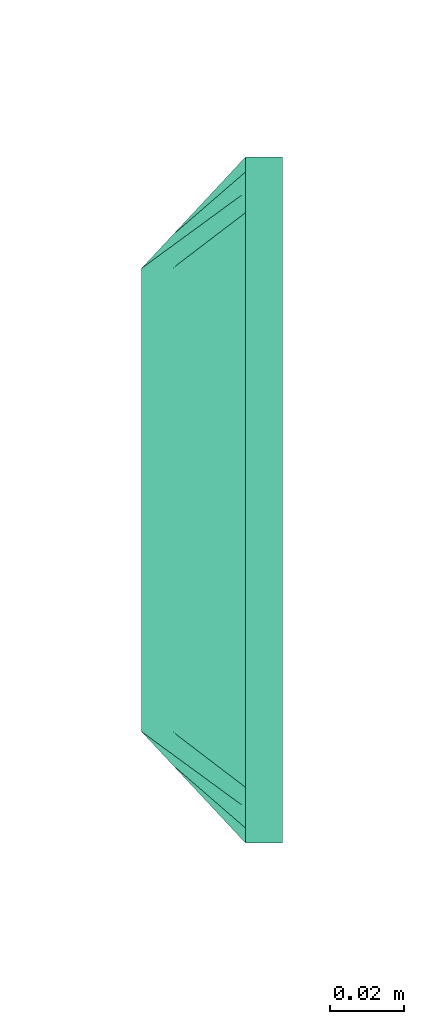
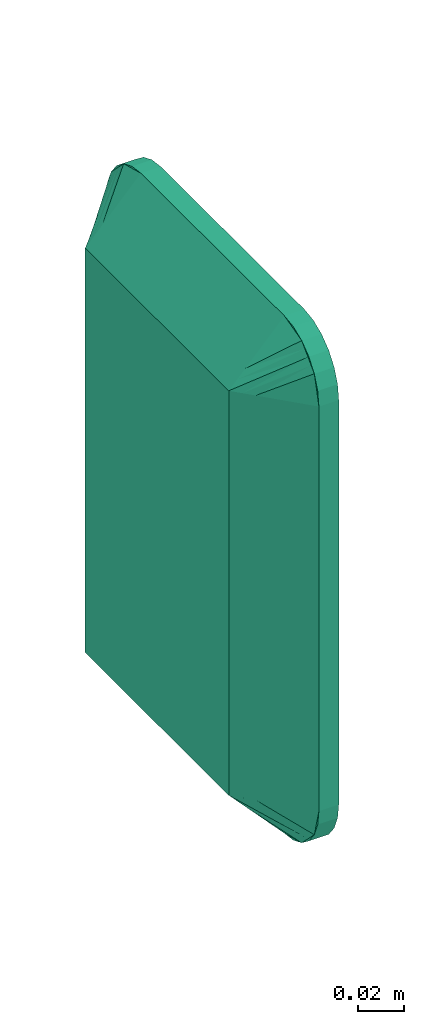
# One storey, part 81 of 166: 1 distribution control element.
"""IFC2X3 building model written with IfcOpenShell, lengths in metres."""

from ifc_helpers import new_model, entity, si_unit, converted_unit, derived_unit, direction, frame, origin, place, context, subcontext, project, spatial, faceted_brep, source, transform, mapped, material, material_list, type_object, type_shapes, element, save


model = new_model("IFC2X3")

# Units and contexts
model_context = context("Model", 3, precision=1e-05, world=origin(), true_north=direction((6.12303176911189e-17, 1.0)))
body_context = subcontext(model_context, "Body", "Model", "MODEL_VIEW")
ifc_project = project(units=[si_unit("LENGTHUNIT", "METRE"), si_unit("AREAUNIT", "SQUARE_METRE"), si_unit("VOLUMEUNIT", "CUBIC_METRE"), converted_unit("PLANEANGLEUNIT", "DEGREE", entity("IfcRatioMeasure", 0.0174532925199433), si_unit("PLANEANGLEUNIT", "RADIAN"), dimensions=[0, 0, 0, 0, 0, 0, 0]), si_unit("MASSUNIT", "GRAM", prefix="KILO"), derived_unit("MASSDENSITYUNIT", [(si_unit("MASSUNIT", "GRAM", prefix="KILO"), 1), (si_unit("LENGTHUNIT", "METRE"), -3)]), si_unit("TIMEUNIT", "SECOND"), si_unit("FREQUENCYUNIT", "HERTZ"), si_unit("THERMODYNAMICTEMPERATUREUNIT", "DEGREE_CELSIUS"), derived_unit("THERMALTRANSMITTANCEUNIT", [(si_unit("MASSUNIT", "GRAM", prefix="KILO"), 1), (si_unit("THERMODYNAMICTEMPERATUREUNIT", "KELVIN"), -1), (si_unit("TIMEUNIT", "SECOND"), -3)]), derived_unit("VOLUMETRICFLOWRATEUNIT", [(si_unit("LENGTHUNIT", "METRE"), 3), (si_unit("TIMEUNIT", "SECOND"), -1)]), si_unit("ELECTRICCURRENTUNIT", "AMPERE"), si_unit("ELECTRICVOLTAGEUNIT", "VOLT"), si_unit("POWERUNIT", "WATT"), si_unit("FORCEUNIT", "NEWTON"), si_unit("ILLUMINANCEUNIT", "LUX"), si_unit("LUMINOUSFLUXUNIT", "LUMEN"), si_unit("LUMINOUSINTENSITYUNIT", "CANDELA"), derived_unit("USERDEFINED", [(si_unit("MASSUNIT", "GRAM", prefix="KILO"), -1), (si_unit("LENGTHUNIT", "METRE"), -2), (si_unit("TIMEUNIT", "SECOND"), 3), (si_unit("LUMINOUSFLUXUNIT", "LUMEN"), 1)]), derived_unit("LINEARVELOCITYUNIT", [(si_unit("LENGTHUNIT", "METRE"), 1), (si_unit("TIMEUNIT", "SECOND"), -1)]), si_unit("PRESSUREUNIT", "PASCAL"), derived_unit("USERDEFINED", [(si_unit("LENGTHUNIT", "METRE"), -2), (si_unit("MASSUNIT", "GRAM", prefix="KILO"), 1), (si_unit("TIMEUNIT", "SECOND"), -2)])], contexts=[model_context])

# Site, building, storey
site_placement = place(None, origin())
site = spatial("IfcSite", under=ifc_project, at=site_placement, Name="Default", CompositionType="ELEMENT")
building_placement = place(site_placement, origin())
building = spatial("IfcBuilding", under=site, at=building_placement, CompositionType="ELEMENT")
storey_placement = place(building_placement, frame((0.0, 0.0, 4.27)))
storey = spatial("IfcBuildingStorey", under=building, at=storey_placement, Name="01", CompositionType="ELEMENT", Elevation=4.27)

# Distribution control element
ifc_material_1 = material(Name="Default grid")
ifc_material_2 = material(Name="White Plastic")
ifc_material_list_1 = material_list([ifc_material_1, ifc_material_2])
ifc_material_list_2 = material_list([ifc_material_1, ifc_material_2])
alarm_type = type_object("IfcAlarmType", Name="Incendie_Diffuseur sonore", PredefinedType="NOTDEFINED", material=ifc_material_list_2)
shared_shape = source(origin(), body_context, "Body", "Brep", [
    faceted_brep([(0.0625000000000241, 0.107499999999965, 0.0379999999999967), (-0.0624999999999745, 0.107499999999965, 0.0379999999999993), (-0.0624999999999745, -0.107500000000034, 0.0379999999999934), (0.0625000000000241, -0.107500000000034, 0.0379999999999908), (0.0625000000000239, 0.107499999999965, 0.0279999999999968), (0.062500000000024, -0.107500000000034, 0.0279999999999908), (-0.0624999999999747, -0.107500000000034, 0.0279999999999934), (-0.0624999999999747, 0.107499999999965, 0.0279999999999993)], [[[0, 1, 2, 3]], [[4, 5, 6, 7]], [[1, 0, 4, 7]], [[2, 1, 7, 6]], [[3, 2, 6, 5]], [[0, 3, 5, 4]]]),
    faceted_brep([(0.0857355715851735, -0.125245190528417, 0.00999999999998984), (0.0829903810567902, -0.1279903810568, 0.00999999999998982), (0.0802451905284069, -0.130735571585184, 0.0099999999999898), (0.0775000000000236, -0.133480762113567, 0.00999999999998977), (0.0760711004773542, -0.133863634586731, 0.0099999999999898), (0.0746422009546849, -0.134246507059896, 0.00999999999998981), (0.0717844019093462, -0.135012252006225, 0.00999999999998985), (0.0694633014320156, -0.135634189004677, 0.00999999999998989), (0.0671422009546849, -0.136256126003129, 0.00999999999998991), (0.0625000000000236, -0.137500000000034, 0.00999999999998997), (-0.0624999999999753, -0.137500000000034, 0.00999999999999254), (-0.0648211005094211, -0.136878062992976, 0.00999999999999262), (-0.0671422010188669, -0.136256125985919, 0.00999999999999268), (-0.0717844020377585, -0.135012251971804, 0.00999999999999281), (-0.0732133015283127, -0.134629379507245, 0.00999999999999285), (-0.0746422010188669, -0.134246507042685, 0.0099999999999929), (-0.0774999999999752, -0.133480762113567, 0.00999999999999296), (-0.0802451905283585, -0.130735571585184, 0.0099999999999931), (-0.0829903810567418, -0.1279903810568, 0.00999999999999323), (-0.085735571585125, -0.125245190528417, 0.00999999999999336), (-0.0884807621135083, -0.122500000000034, 0.00999999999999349), (-0.0888636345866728, -0.121071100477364, 0.00999999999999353), (-0.0892465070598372, -0.119642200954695, 0.00999999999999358), (-0.0900122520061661, -0.116784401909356, 0.00999999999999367), (-0.0906341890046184, -0.114463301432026, 0.00999999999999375), (-0.0912561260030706, -0.112142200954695, 0.00999999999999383), (-0.0924999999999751, -0.107500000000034, 0.00999999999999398), (-0.0924999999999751, 0.107499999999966, 0.00999999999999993), (-0.0918780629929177, 0.109821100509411, 0.00999999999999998), (-0.0912561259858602, 0.112142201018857, 0.01), (-0.0900122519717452, 0.116784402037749, 0.0100000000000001), (-0.089629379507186, 0.118213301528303, 0.0100000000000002), (-0.0892465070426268, 0.119642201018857, 0.0100000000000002), (-0.0884807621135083, 0.122499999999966, 0.0100000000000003), (-0.085735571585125, 0.125245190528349, 0.0100000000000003), (-0.0829903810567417, 0.127990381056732, 0.0100000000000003), (-0.0802451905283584, 0.130735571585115, 0.0100000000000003), (-0.0774999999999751, 0.133480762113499, 0.0100000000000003), (-0.0760711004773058, 0.133863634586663, 0.0100000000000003), (-0.0746422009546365, 0.134246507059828, 0.0100000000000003), (-0.0717844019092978, 0.135012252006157, 0.0100000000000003), (-0.0694633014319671, 0.135634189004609, 0.0100000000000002), (-0.0671422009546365, 0.136256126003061, 0.0100000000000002), (-0.0624999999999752, 0.137499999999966, 0.0100000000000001), (0.0625000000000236, 0.137499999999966, 0.00999999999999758), (0.0648211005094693, 0.136878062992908, 0.00999999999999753), (0.0671422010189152, 0.136256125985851, 0.00999999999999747), (0.0717844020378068, 0.135012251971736, 0.00999999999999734), (0.073213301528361, 0.134629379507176, 0.0099999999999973), (0.0746422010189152, 0.134246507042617, 0.00999999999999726), (0.0775000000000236, 0.133480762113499, 0.00999999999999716), (0.0802451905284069, 0.130735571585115, 0.00999999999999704), (0.0829903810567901, 0.127990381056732, 0.00999999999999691), (0.0857355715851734, 0.125245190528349, 0.00999999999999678), (0.0884807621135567, 0.122499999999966, 0.00999999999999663), (0.0888636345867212, 0.121071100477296, 0.00999999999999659), (0.0892465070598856, 0.119642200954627, 0.00999999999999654), (0.0900122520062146, 0.116784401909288, 0.00999999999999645), (0.0906341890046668, 0.114463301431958, 0.00999999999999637), (0.0912561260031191, 0.112142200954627, 0.00999999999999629), (0.0925000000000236, 0.107499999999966, 0.00999999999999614), (0.0925000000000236, -0.107500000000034, 0.00999999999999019), (0.0918780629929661, -0.109821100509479, 0.00999999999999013), (0.0912561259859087, -0.112142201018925, 0.00999999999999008), (0.0900122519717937, -0.116784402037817, 0.00999999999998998), (0.0896293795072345, -0.118213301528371, 0.00999999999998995), (0.0892465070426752, -0.119642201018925, 0.00999999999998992), (0.0884807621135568, -0.122500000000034, 0.00999999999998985), (-0.0624999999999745, -0.107500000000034, 0.0379999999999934), (-0.0624999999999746, 0.107499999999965, 0.0379999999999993), (-0.066978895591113, 0.107499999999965, 0.0338196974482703), (-0.0714577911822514, 0.107499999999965, 0.0296393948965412), (-0.0759366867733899, 0.107499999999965, 0.0254590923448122), (-0.0804155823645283, 0.107499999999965, 0.0212787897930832), (-0.0864577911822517, 0.107499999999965, 0.0156393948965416), (-0.0894788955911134, 0.107499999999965, 0.0128196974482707), (-0.0864577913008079, -0.107500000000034, 0.0156393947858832), (-0.0834366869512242, -0.107500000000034, 0.0184590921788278), (-0.0804155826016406, -0.107500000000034, 0.0212787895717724), (-0.0759366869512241, -0.107500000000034, 0.0254590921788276), (-0.0714577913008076, -0.107500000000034, 0.0296393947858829), (-0.066978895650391, -0.107500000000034, 0.0338196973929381), (-0.0624999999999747, -0.116457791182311, 0.0296393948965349), (-0.0624999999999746, -0.111978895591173, 0.0338196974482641), (-0.0624999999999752, -0.134478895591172, 0.0128196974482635), (-0.0624999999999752, -0.131457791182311, 0.0156393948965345), (-0.062499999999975, -0.125415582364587, 0.0212787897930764), (-0.0624999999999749, -0.120936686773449, 0.0254590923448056), (0.0625000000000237, -0.131457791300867, 0.0156393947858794), (0.0625000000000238, -0.128436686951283, 0.0184590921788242), (0.0625000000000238, -0.1254155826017, 0.0212787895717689), (0.0625000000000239, -0.120936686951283, 0.0254590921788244), (0.062500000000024, -0.116457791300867, 0.0296393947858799), (0.0625000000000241, -0.111978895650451, 0.0338196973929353), (0.0625000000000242, -0.107500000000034, 0.0379999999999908), (0.0714577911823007, -0.107500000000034, 0.0296393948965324), (0.0669788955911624, -0.107500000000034, 0.0338196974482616), (0.089478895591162, -0.107500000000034, 0.0128196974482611), (0.0864577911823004, -0.107500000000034, 0.0156393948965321), (0.0804155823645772, -0.107500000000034, 0.0212787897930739), (0.075936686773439, -0.107500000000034, 0.0254590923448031), (0.0864577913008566, 0.107499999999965, 0.0156393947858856), (0.0834366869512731, 0.107499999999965, 0.0184590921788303), (0.0804155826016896, 0.107499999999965, 0.021278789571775), (0.0759366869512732, 0.107499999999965, 0.0254590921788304), (0.0714577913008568, 0.107499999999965, 0.0296393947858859), (0.0669788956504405, 0.107499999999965, 0.0338196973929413), (0.0625000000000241, 0.107499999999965, 0.0379999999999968), (0.062500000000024, 0.116457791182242, 0.0296393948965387), (0.062500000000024, 0.111978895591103, 0.0338196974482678), (0.0625000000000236, 0.134478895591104, 0.0128196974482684), (0.0625000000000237, 0.131457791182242, 0.0156393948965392), (0.0625000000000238, 0.125415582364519, 0.0212787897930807), (0.0625000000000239, 0.12093668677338, 0.0254590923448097), (-0.062499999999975, 0.131457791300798, 0.0156393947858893), (-0.062499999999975, 0.128436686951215, 0.0184590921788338), (-0.0624999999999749, 0.125415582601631, 0.0212787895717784), (-0.0624999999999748, 0.120936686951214, 0.0254590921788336), (-0.0624999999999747, 0.116457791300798, 0.0296393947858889), (-0.0624999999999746, 0.111978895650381, 0.0338196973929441), (0.0625000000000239, 0.107499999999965, 0.0279999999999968), (-0.0624999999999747, 0.107499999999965, 0.0279999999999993), (-0.0624999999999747, -0.107500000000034, 0.0279999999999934), (0.062500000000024, -0.107500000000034, 0.0279999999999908)], [[[0, 1, 2, 3, 4, 5, 6, 7, 8, 9, 10, 11, 12, 13, 14, 15, 16, 17, 18, 19, 20, 21, 22, 23, 24, 25, 26, 27, 28, 29, 30, 31, 32, 33, 34, 35, 36, 37, 38, 39, 40, 41, 42, 43, 44, 45, 46, 47, 48, 49, 50, 51, 52, 53, 54, 55, 56, 57, 58, 59, 60, 61, 62, 63, 64, 65, 66, 67]], [[68, 69, 70, 71, 72, 73, 74, 75, 27, 26, 76, 77, 78, 79, 80, 81]], [[80, 20, 19]], [[82, 17, 16]], [[83, 18, 17]], [[19, 18, 81]], [[20, 80, 79, 78, 77, 76, 26, 25, 24, 23, 22, 21]], [[14, 13, 12, 11, 10, 84, 85, 86, 87, 82, 16, 15]], [[18, 83, 68]], [[82, 83, 17]], [[18, 68, 81]], [[80, 19, 81]], [[9, 88, 89, 90, 91, 92, 93, 94, 68, 83, 82, 87, 86, 85, 84, 10]], [[92, 3, 2]], [[95, 0, 67]], [[96, 1, 0]], [[2, 1, 93]], [[3, 92, 91, 90, 89, 88, 9, 8, 7, 6, 5, 4]], [[65, 64, 63, 62, 61, 97, 98, 99, 100, 95, 67, 66]], [[1, 96, 94]], [[95, 96, 0]], [[1, 94, 93]], [[92, 2, 93]], [[60, 101, 102, 103, 104, 105, 106, 107, 94, 96, 95, 100, 99, 98, 97, 61]], [[105, 54, 53]], [[108, 51, 50]], [[109, 52, 51]], [[53, 52, 106]], [[54, 105, 104, 103, 102, 101, 60, 59, 58, 57, 56, 55]], [[48, 47, 46, 45, 44, 110, 111, 112, 113, 108, 50, 49]], [[52, 109, 107]], [[108, 109, 51]], [[52, 107, 106]], [[105, 53, 106]], [[69, 107, 109, 108, 113, 112, 111, 110, 44, 43, 114, 115, 116, 117, 118, 119]], [[118, 37, 36]], [[71, 34, 33]], [[70, 35, 34]], [[36, 35, 119]], [[37, 118, 117, 116, 115, 114, 43, 42, 41, 40, 39, 38]], [[31, 30, 29, 28, 27, 75, 74, 73, 72, 71, 33, 32]], [[35, 70, 69]], [[71, 70, 34]], [[35, 69, 119]], [[118, 36, 119]], [[120, 121, 122, 123]], [[120, 107, 69, 121]], [[121, 69, 68, 122]], [[122, 68, 94, 123]], [[123, 94, 107, 120]]]),
    faceted_brep([(0.0625000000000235, 0.137499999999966, 0.00999999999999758), (-0.0624999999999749, 0.137499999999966, 0.0100000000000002), (-0.0702645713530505, 0.136477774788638, 0.0100000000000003), (-0.0774999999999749, 0.133480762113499, 0.0100000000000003), (-0.0837132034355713, 0.128713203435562, 0.0100000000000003), (-0.0884807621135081, 0.122499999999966, 0.0100000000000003), (-0.0914777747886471, 0.115264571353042, 0.0100000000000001), (-0.0924999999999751, 0.107499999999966, 0.00999999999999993), (-0.0924999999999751, -0.107500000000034, 0.00999999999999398), (-0.0914777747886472, -0.115264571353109, 0.00999999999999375), (-0.0884807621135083, -0.122500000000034, 0.00999999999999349), (-0.0837132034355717, -0.12871320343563, 0.00999999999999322), (-0.0774999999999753, -0.133480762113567, 0.00999999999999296), (-0.0702645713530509, -0.136477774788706, 0.00999999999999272), (-0.0624999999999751, -0.137500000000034, 0.00999999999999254), (0.0625000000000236, -0.137500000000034, 0.00999999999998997), (0.0702645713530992, -0.136477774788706, 0.00999999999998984), (0.0775000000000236, -0.133480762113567, 0.00999999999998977), (0.08371320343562, -0.12871320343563, 0.00999999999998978), (0.0884807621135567, -0.122500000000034, 0.00999999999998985), (0.0914777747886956, -0.115264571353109, 0.00999999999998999), (0.0925000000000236, -0.107500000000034, 0.00999999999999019), (0.0925000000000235, 0.107499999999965, 0.00999999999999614), (0.0914777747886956, 0.115264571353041, 0.00999999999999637), (0.0884807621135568, 0.122499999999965, 0.00999999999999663), (0.0837132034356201, 0.128713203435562, 0.0099999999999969), (0.0775000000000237, 0.133480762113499, 0.00999999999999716), (0.0702645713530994, 0.136477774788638, 0.00999999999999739), (-0.0624999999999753, 0.137499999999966, 0.0), (0.0625000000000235, 0.137499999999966, 0.0), (0.0702645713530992, 0.136477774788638, 0.0), (0.0775000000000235, 0.133480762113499, 0.0), (0.0837132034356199, 0.128713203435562, 0.0), (0.0884807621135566, 0.122499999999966, 0.0), (0.0914777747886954, 0.115264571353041, 0.0), (0.0925000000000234, 0.107499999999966, 0.0), (0.0925000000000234, -0.107500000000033, 0.0), (0.0914777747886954, -0.115264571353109, 0.0), (0.0884807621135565, -0.122500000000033, 0.0), (0.0837132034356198, -0.12871320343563, 0.0), (0.0775000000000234, -0.133480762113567, 0.0), (0.070264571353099, -0.136477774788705, 0.0), (0.0625000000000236, -0.137500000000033, 0.0), (-0.0624999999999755, -0.137500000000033, 0.0), (-0.0702645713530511, -0.136477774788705, 0.0), (-0.0774999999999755, -0.133480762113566, 0.0), (-0.0837132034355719, -0.12871320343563, 0.0), (-0.0884807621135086, -0.122500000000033, 0.0), (-0.0914777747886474, -0.115264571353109, 0.0), (-0.0924999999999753, -0.107500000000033, 0.0), (-0.0924999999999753, 0.107499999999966, 0.0), (-0.0914777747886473, 0.115264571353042, 0.0), (-0.0884807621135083, 0.122499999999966, 0.0), (-0.0837132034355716, 0.128713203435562, 0.0), (-0.0774999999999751, 0.133480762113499, 0.0), (-0.0702645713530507, 0.136477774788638, 0.0)], [[[0, 1, 2, 3, 4, 5, 6, 7, 8, 9, 10, 11, 12, 13, 14, 15, 16, 17, 18, 19, 20, 21, 22, 23, 24, 25, 26, 27]], [[28, 29, 30, 31, 32, 33, 34, 35, 36, 37, 38, 39, 40, 41, 42, 43, 44, 45, 46, 47, 48, 49, 50, 51, 52, 53, 54, 55]], [[1, 0, 29, 28]], [[2, 1, 28, 55]], [[3, 2, 55, 54]], [[4, 3, 54, 53]], [[5, 4, 53, 52]], [[6, 5, 52, 51]], [[7, 6, 51, 50]], [[8, 7, 50, 49]], [[9, 8, 49, 48]], [[10, 9, 48, 47]], [[11, 10, 47, 46]], [[12, 11, 46, 45]], [[13, 12, 45, 44]], [[14, 13, 44, 43]], [[15, 14, 43, 42]], [[16, 15, 42, 41]], [[17, 16, 41, 40]], [[18, 17, 40, 39]], [[19, 18, 39, 38]], [[20, 19, 38, 37]], [[21, 20, 37, 36]], [[22, 21, 36, 35]], [[23, 22, 35, 34]], [[24, 23, 34, 33]], [[25, 24, 33, 32]], [[26, 25, 32, 31]], [[27, 26, 31, 30]], [[0, 27, 30, 29]]]),
])
type_shapes(alarm_type, [shared_shape])
distribution_control_element_placement = place(building_placement, frame((45.159743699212, -188.16506962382, 6.67000000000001), z_axis=(-1.0, 0.0, 0.0), x_axis=(0.0, -1.0, 0.0)))
element("IfcDistributionControlElement", 1, at=distribution_control_element_placement, inside=storey, type_object=alarm_type, material=ifc_material_list_1, Name="INT_DIffuseur sonore:Incendie_Diffuseur sonore", ObjectType="INT_DIffuseur sonore:Incendie_Diffuseur sonore", context=body_context, shape_type="MappedRepresentation", body=[
    mapped(shared_shape, transform((0.0, 0.0, 0.0), scale=1.0)),
])

save(model, "model.ifc")
